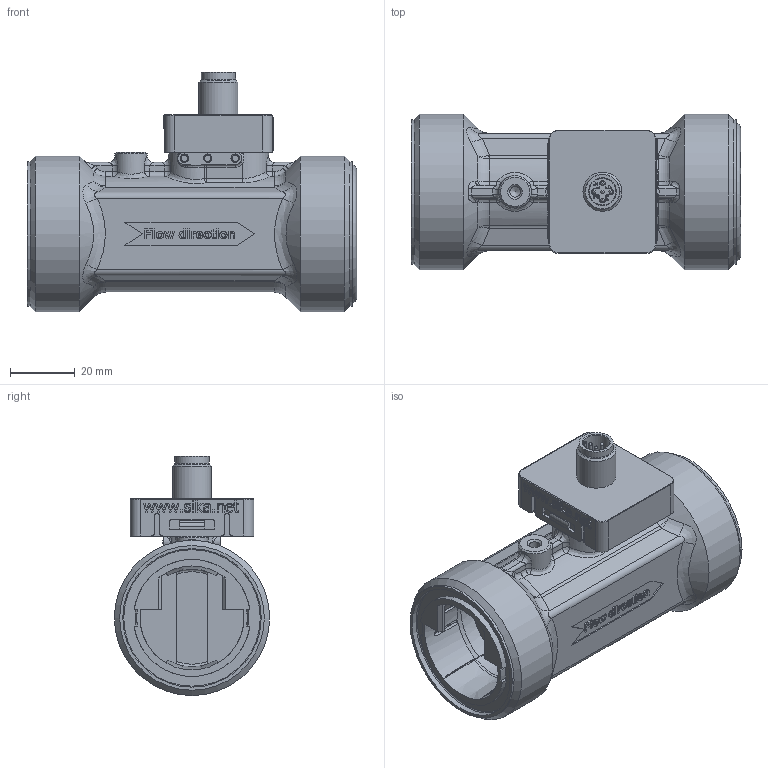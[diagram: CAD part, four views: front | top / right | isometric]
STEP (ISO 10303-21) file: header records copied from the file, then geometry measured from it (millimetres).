
FILE_DESCRIPTION(/* description */ (''),/* implementation_level */ '2;1');
FILE_NAME(/* name */ 'T:\ZEICHNUN\step\Vortex\VVXDDEGBVX00351M.stp',/* time_stamp */ '2024-04-11T09:49:58+02:00',/* author */ ('sadlowski'),/* organization */ (''),/* preprocessor_version */ 'ST-DEVELOPER v18',/* originating_system */ 'Autodesk Inventor 2020',/* authorisation */ '');
FILE_SCHEMA (('AUTOMOTIVE_DESIGN { 1 0 10303 214 3 1 1 }'));
Products named in the file (1): VVX32_G112_VA
Bounding box: 101.3 x 47.8 x 73.6 mm (x, y, z)
Volume: 126624.7 mm3; surface area: 34591.8 mm2
Topology: 2 solids, 2 shells, 1383 faces, 3736 edges, 2430 vertices
Faces by surface type: plane 750, bspline 343, cylinder 200, torus 52, cone 30, sphere 8
Full cylindrical faces by diameter (mm): 0.5 x1, 0.714 x1, 1 x5, 2 x3, 3.24 x1, 10 x1, 10.5 x1, 10.6 x1, 12 x1, 14 x1, 32 x2, 34 x1, 36 x2, 37 x1, 42.6 x3, 44.5 x2, 47.803 x2
Entity records: 49453 total; most frequent: CARTESIAN_POINT 16632, ORIENTED_EDGE 7444, DIRECTION 5687, EDGE_CURVE 3722, VERTEX_POINT 2430, LINE 2299, VECTOR 2299, AXIS2_PLACEMENT_3D 1694
